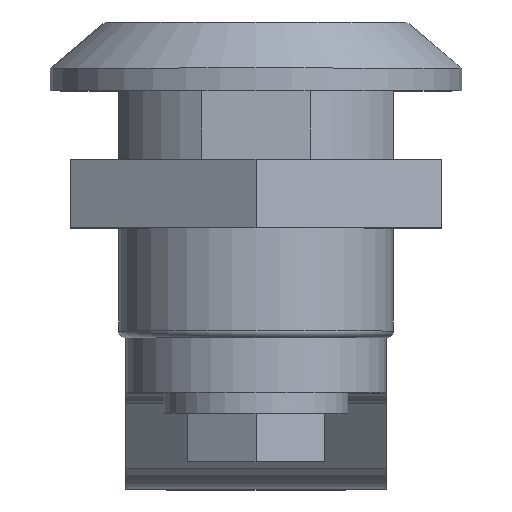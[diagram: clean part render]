
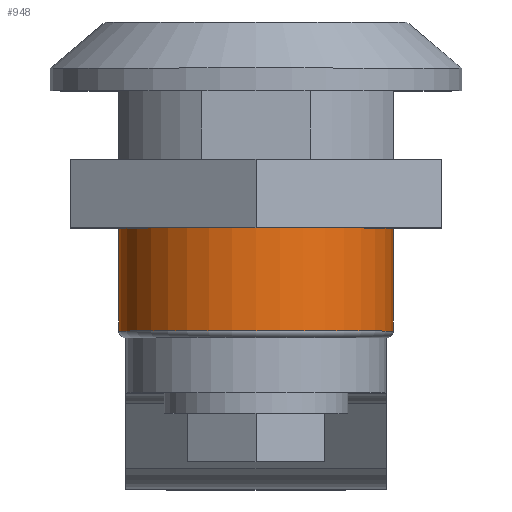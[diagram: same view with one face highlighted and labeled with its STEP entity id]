
A CAD part, top view. The second image highlights one B-rep face of the part: STEP entity #948.
In plain terms, the highlighted cylindrical face has radius 10 mm (diameter 20 mm), a full revolution.
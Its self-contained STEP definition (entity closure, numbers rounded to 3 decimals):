
#14 = CIRCLE ( 'NONE', #1879, 10. ) ;
#89 = EDGE_LOOP ( 'NONE', ( #2000 ) ) ;
#140 = CARTESIAN_POINT ( 'NONE',  ( 0., 0., 0. ) ) ;
#317 = AXIS2_PLACEMENT_3D ( 'NONE', #1925, #1633, #1274 ) ;
#328 = DIRECTION ( 'NONE',  ( 0., 1., 0. ) ) ;
#385 = EDGE_LOOP ( 'NONE', ( #909 ) ) ;
#395 = CARTESIAN_POINT ( 'NONE',  ( 0., 8., -10. ) ) ;
#545 = CARTESIAN_POINT ( 'NONE',  ( 0., 0.5, -10. ) ) ;
#763 = FACE_OUTER_BOUND ( 'NONE', #89, .T. ) ;
#909 = ORIENTED_EDGE ( 'NONE', *, *, #1018, .T. ) ;
#918 = FACE_OUTER_BOUND ( 'NONE', #385, .T. ) ;
#948 = ADVANCED_FACE ( 'NONE', ( #918, #763 ), #1414, .T. ) ;
#957 = DIRECTION ( 'NONE',  ( 0., 0., -1. ) ) ;
#970 = CIRCLE ( 'NONE', #317, 10. ) ;
#1018 = EDGE_CURVE ( 'NONE', #1482, #1482, #14, .T. ) ;
#1093 = DIRECTION ( 'NONE',  ( 0., -1., 0. ) ) ;
#1274 = DIRECTION ( 'NONE',  ( 0., 0., -1. ) ) ;
#1331 = AXIS2_PLACEMENT_3D ( 'NONE', #140, #1093, #1907 ) ;
#1414 = CYLINDRICAL_SURFACE ( 'NONE', #1331, 10. ) ;
#1473 = VERTEX_POINT ( 'NONE', #395 ) ;
#1482 = VERTEX_POINT ( 'NONE', #545 ) ;
#1611 = CARTESIAN_POINT ( 'NONE',  ( 0., 0.5, 0. ) ) ;
#1633 = DIRECTION ( 'NONE',  ( 0., -1., 0. ) ) ;
#1735 = EDGE_CURVE ( 'NONE', #1473, #1473, #970, .T. ) ;
#1879 = AXIS2_PLACEMENT_3D ( 'NONE', #1611, #328, #957 ) ;
#1907 = DIRECTION ( 'NONE',  ( 0., 0., -1. ) ) ;
#1925 = CARTESIAN_POINT ( 'NONE',  ( 0., 8., 0. ) ) ;
#2000 = ORIENTED_EDGE ( 'NONE', *, *, #1735, .T. ) ;
